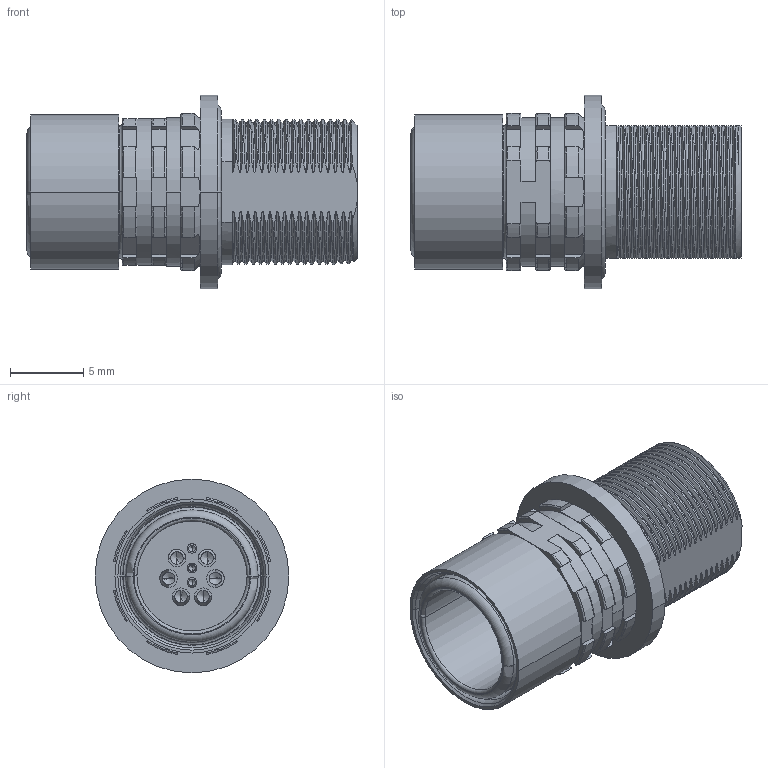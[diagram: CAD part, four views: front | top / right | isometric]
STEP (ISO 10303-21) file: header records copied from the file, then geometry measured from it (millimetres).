
FILE_DESCRIPTION((''),'2;1');
FILE_NAME('00160481--_ASM','2020-10-29T09:39:49',('EUnterhaslberger'),(''),'CREO PARAMETRIC BY PTC INC, 2018300','CREO PARAMETRIC BY PTC INC, 2018300','');
FILE_SCHEMA(('AP242_MANAGED_MODEL_BASED_3D_ENGINEERING_MIM_LF { 1 0 10303 442 1 1 4 }'));
Products named in the file (5): TEMP_SW_STEP_MONOBLOCK_1_1; TEMP_SW_STEP_MONOBLOCK_1_2; TEMP_SW_STEP_MONOBLOCK_1_3; TEMP_SW_STEP_MONOBLOCK_1_ASM; 00160481--_ASM
Assembly tree (4 placements, depth 3):
  00160481--_ASM
    TEMP_SW_STEP_MONOBLOCK_1_ASM
      TEMP_SW_STEP_MONOBLOCK_1_1
      TEMP_SW_STEP_MONOBLOCK_1_2
      TEMP_SW_STEP_MONOBLOCK_1_3
Bounding box: 22.5 x 13.2 x 13.2 mm (x, y, z)
Volume: 1096.7 mm3; surface area: 2403 mm2
Topology: 3 solids, 3 shells, 712 faces, 1935 edges, 1255 vertices
Faces by surface type: cylinder 212, plane 205, bspline 130, cone 87, torus 77, sphere 1
Entity records: 64755 total; most frequent: CARTESIAN_POINT 42759, ORIENTED_EDGE 3834, DIRECTION 3095, EDGE_CURVE 1917, VERTEX_POINT 1255, AXIS2_PLACEMENT_3D 1208, EDGE_LOOP 762, FACE_OUTER_BOUND 712
